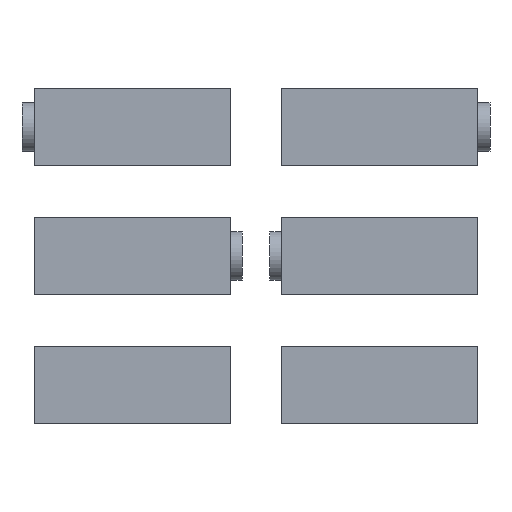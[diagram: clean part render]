
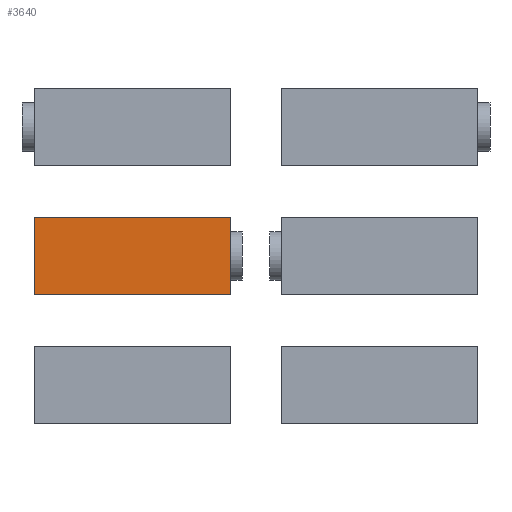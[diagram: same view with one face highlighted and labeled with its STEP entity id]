
A CAD part, front view. The second image highlights one B-rep face of the part: STEP entity #3640.
In plain terms, the highlighted planar face has unit normal (0, -1, 0).
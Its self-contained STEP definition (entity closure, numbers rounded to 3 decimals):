
#3640=ADVANCED_FACE('', (#3650), #3660, .T.);
#20620=AXIS2_PLACEMENT_3D('Ax2Pl3d', #20630, #20640, #20650);
#49100=CARTESIAN_POINT('', (0.,60.,
80.));
#49110=CARTESIAN_POINT('', (0.,60.,
50.));
#49120=CARTESIAN_POINT('', (0.,60.,
80.));
#49260=CARTESIAN_POINT('', (76.,60.,50.));
#49310=CARTESIAN_POINT('', (76.,60.,80.));
#49320=CARTESIAN_POINT('', (76.,60.,80.));
#49350=CARTESIAN_POINT('', (76.,60.,80.));
#49540=CARTESIAN_POINT('', (76.,60.,50.));
#20630=CARTESIAN_POINT('HicPkt', (0.,60.,
50.));
#76100=DIRECTION('', (0.,0.,1.));
#76170=DIRECTION('', (0.,0.,1.));
#76180=DIRECTION('', (1.,0.,0.));
#76200=DIRECTION('', (1.,0.,0.));
#20640=DIRECTION('Axis', (0.,-1.,
0.));
#20650=DIRECTION('RefDirection', (0.,
0.,-1.));
#78860=EDGE_CURVE('', #78870, #78880, #78890, .T.);
#79200=EDGE_CURVE('', #79110, #79180, #79210, .T.);
#79260=EDGE_CURVE('', #78880, #79180, #79270, .T.);
#79640=EDGE_CURVE('', #78870, #79110, #79650, .T.);
#91660=EDGE_LOOP('Edge_loop', (#91670,#91680,#91690,#91700));
#3650=FACE_OUTER_BOUND('Face_outer_bound', #91660, .T.);
#78890=LINE('Line', #49100, #113020);
#79210=LINE('Line', #49320, #113090);
#79270=LINE('Line', #49350, #113100);
#79650=LINE('Line', #49540, #113120);
#91670=ORIENTED_EDGE('', *, *, #79640, .T.);
#91680=ORIENTED_EDGE('', *, *, #79200, .T.);
#91690=ORIENTED_EDGE('', *, *, #79260, .F.);
#91700=ORIENTED_EDGE('', *, *, #78860, .F.);
#3660=PLANE('Plane', #20620);
#113020=VECTOR('', #76100, 30.);
#113090=VECTOR('', #76170, 30.);
#113100=VECTOR('', #76180, 76.);
#113120=VECTOR('', #76200, 76.);
#78870=VERTEX_POINT('', #49110);
#78880=VERTEX_POINT('', #49120);
#79110=VERTEX_POINT('', #49260);
#79180=VERTEX_POINT('', #49310);
